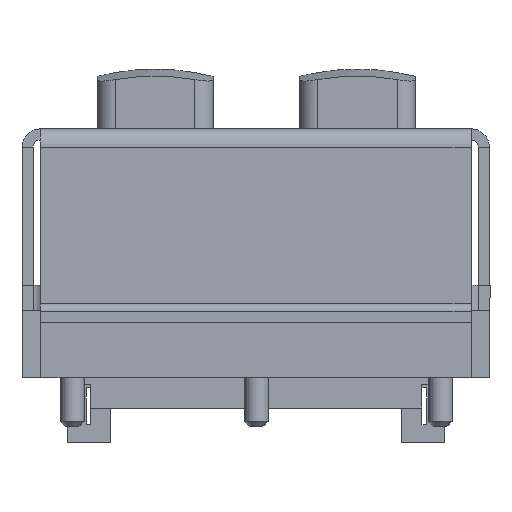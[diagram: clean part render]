
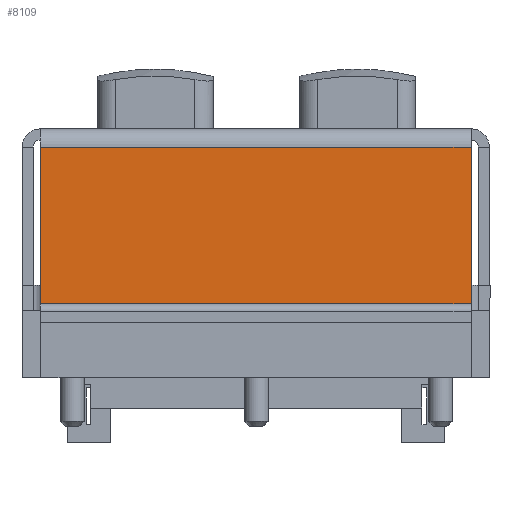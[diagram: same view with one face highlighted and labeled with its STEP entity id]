
A CAD part, left-side view. The second image highlights one B-rep face of the part: STEP entity #8109.
In plain terms, the highlighted planar face has unit normal (-1, 0, 0).
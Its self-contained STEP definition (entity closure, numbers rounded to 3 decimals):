
#2191=CARTESIAN_POINT('',(-39.752,-11.731,9.5));
#2192=VERTEX_POINT('',#2191);
#2217=CARTESIAN_POINT('',(-39.752,11.669,9.5));
#2218=VERTEX_POINT('',#2217);
#2301=CARTESIAN_POINT('',(-39.752,-11.731,9.5));
#2302=DIRECTION('',(0.,1.,0.));
#2303=VECTOR('',#2302,23.4);
#2304=LINE('',#2301,#2303);
#2305=EDGE_CURVE('',#2192,#2218,#2304,.T.);
#2617=CARTESIAN_POINT('',(-39.752,11.669,1.));
#2618=VERTEX_POINT('',#2617);
#2625=CARTESIAN_POINT('',(-39.752,11.669,1.));
#2626=DIRECTION('',(0.0,0.0,1.0));
#2627=VECTOR('',#2626,8.5);
#2628=LINE('',#2625,#2627);
#2629=EDGE_CURVE('',#2618,#2218,#2628,.T.);
#8004=CARTESIAN_POINT('',(-39.752,-11.731,1.));
#8005=VERTEX_POINT('',#8004);
#8006=CARTESIAN_POINT('',(-39.752,11.669,1.));
#8007=DIRECTION('',(0.,-1.,0.0));
#8008=VECTOR('',#8007,23.4);
#8009=LINE('',#8006,#8008);
#8010=EDGE_CURVE('',#2618,#8005,#8009,.T.);
#8036=CARTESIAN_POINT('',(-39.752,-11.731,9.5));
#8037=DIRECTION('',(0.0,0.0,-1.0));
#8038=VECTOR('',#8037,8.5);
#8039=LINE('',#8036,#8038);
#8040=EDGE_CURVE('',#2192,#8005,#8039,.T.);
#8098=CARTESIAN_POINT('',(-39.752,-0.031,5.228));
#8099=DIRECTION('',(1.,0.,0.));
#8100=DIRECTION('',(0.,0.,-1.));
#8101=AXIS2_PLACEMENT_3D('',#8098,#8099,#8100);
#8102=PLANE('',#8101);
#8103=ORIENTED_EDGE('',*,*,#2305,.T.);
#8104=ORIENTED_EDGE('',*,*,#2629,.F.);
#8105=ORIENTED_EDGE('',*,*,#8010,.T.);
#8106=ORIENTED_EDGE('',*,*,#8040,.F.);
#8107=EDGE_LOOP('',(#8103,#8104,#8105,#8106));
#8108=FACE_OUTER_BOUND('',#8107,.T.);
#8109=ADVANCED_FACE('',(#8108),#8102,.F.);
